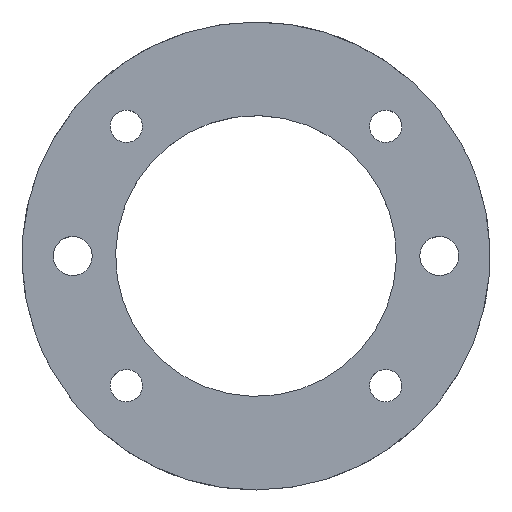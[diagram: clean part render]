
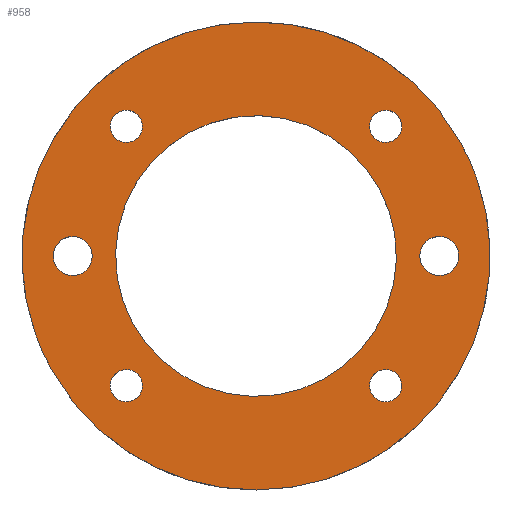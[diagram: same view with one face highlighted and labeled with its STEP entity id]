
A CAD part, top view. The second image highlights one B-rep face of the part: STEP entity #958.
In plain terms, the highlighted planar face has unit normal (0, 0, 1).
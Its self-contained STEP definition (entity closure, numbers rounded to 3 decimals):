
#308=CARTESIAN_POINT('Axis2P3D Location',(-23.5,0.,-659.)) ;
#312=CARTESIAN_POINT('Vertex',(-24.699,2.194,-659.)) ;
#314=CARTESIAN_POINT('Vertex',(-22.301,-2.194,-659.)) ;
#523=CARTESIAN_POINT('Axis2P3D Location',(16.617,-16.617,-659.)) ;
#527=CARTESIAN_POINT('Vertex',(14.803,-17.608,-659.)) ;
#529=CARTESIAN_POINT('Vertex',(18.431,-15.626,-659.)) ;
#554=CARTESIAN_POINT('Axis2P3D Location',(16.617,-16.617,-659.)) ;
#629=CARTESIAN_POINT('Axis2P3D Location',(16.617,16.617,-659.)) ;
#633=CARTESIAN_POINT('Vertex',(17.608,14.803,-659.)) ;
#635=CARTESIAN_POINT('Vertex',(15.626,18.431,-659.)) ;
#660=CARTESIAN_POINT('Axis2P3D Location',(16.617,16.617,-659.)) ;
#729=CARTESIAN_POINT('Axis2P3D Location',(-16.617,16.617,-659.)) ;
#733=CARTESIAN_POINT('Vertex',(-18.431,15.626,-659.)) ;
#735=CARTESIAN_POINT('Vertex',(-14.803,17.608,-659.)) ;
#760=CARTESIAN_POINT('Axis2P3D Location',(-16.617,16.617,-659.)) ;
#777=CARTESIAN_POINT('Axis2P3D Location',(-16.617,-16.617,-659.)) ;
#781=CARTESIAN_POINT('Vertex',(-15.626,-18.431,-659.)) ;
#783=CARTESIAN_POINT('Vertex',(-17.608,-14.803,-659.)) ;
#808=CARTESIAN_POINT('Axis2P3D Location',(-16.617,-16.617,-659.)) ;
#825=CARTESIAN_POINT('Axis2P3D Location',(-23.5,0.,-659.)) ;
#837=CARTESIAN_POINT('Axis2P3D Location',(0.,76.328,-659.)) ;
#843=CARTESIAN_POINT('Control Point',(26.327,14.383,-659.)) ;
#844=CARTESIAN_POINT('Control Point',(24.951,16.902,-659.)) ;
#845=CARTESIAN_POINT('Control Point',(23.255,19.29,-659.)) ;
#846=CARTESIAN_POINT('Control Point',(21.251,21.488,-659.)) ;
#847=CARTESIAN_POINT('Control Point',(16.763,25.316,-659.)) ;
#848=CARTESIAN_POINT('Control Point',(11.393,27.987,-659.)) ;
#849=CARTESIAN_POINT('Control Point',(8.583,28.976,-659.)) ;
#850=CARTESIAN_POINT('Control Point',(3.051,30.179,-659.)) ;
#851=CARTESIAN_POINT('Control Point',(-2.649,30.064,-659.)) ;
#852=CARTESIAN_POINT('Control Point',(-5.331,29.707,-659.)) ;
#853=CARTESIAN_POINT('Control Point',(-10.572,28.397,-659.)) ;
#854=CARTESIAN_POINT('Control Point',(-15.402,25.955,-659.)) ;
#855=CARTESIAN_POINT('Control Point',(-17.667,24.47,-659.)) ;
#856=CARTESIAN_POINT('Control Point',(-21.834,21.01,-659.)) ;
#857=CARTESIAN_POINT('Control Point',(-25.12,16.73,-659.)) ;
#858=CARTESIAN_POINT('Control Point',(-26.516,14.413,-659.)) ;
#859=CARTESIAN_POINT('Control Point',(-28.895,9.226,-659.)) ;
#860=CARTESIAN_POINT('Control Point',(-29.996,3.68,-659.)) ;
#861=CARTESIAN_POINT('Control Point',(-30.208,0.71,-659.)) ;
#862=CARTESIAN_POINT('Control Point',(-29.952,-4.271,-659.)) ;
#863=CARTESIAN_POINT('Control Point',(-28.723,-8.999,-659.)) ;
#864=CARTESIAN_POINT('Control Point',(-28.063,-10.876,-659.)) ;
#865=CARTESIAN_POINT('Control Point',(-27.26,-12.675,-659.)) ;
#866=CARTESIAN_POINT('Control Point',(-26.327,-14.383,-659.)) ;
#867=CARTESIAN_POINT('Vertex',(26.327,14.383,-659.)) ;
#869=CARTESIAN_POINT('Vertex',(-26.327,-14.383,-659.)) ;
#873=CARTESIAN_POINT('Control Point',(-26.327,-14.383,-659.)) ;
#874=CARTESIAN_POINT('Control Point',(-24.951,-16.902,-659.)) ;
#875=CARTESIAN_POINT('Control Point',(-23.255,-19.29,-659.)) ;
#876=CARTESIAN_POINT('Control Point',(-21.251,-21.488,-659.)) ;
#877=CARTESIAN_POINT('Control Point',(-16.763,-25.316,-659.)) ;
#878=CARTESIAN_POINT('Control Point',(-11.393,-27.987,-659.)) ;
#879=CARTESIAN_POINT('Control Point',(-8.583,-28.976,-659.)) ;
#880=CARTESIAN_POINT('Control Point',(-3.051,-30.179,-659.)) ;
#881=CARTESIAN_POINT('Control Point',(2.649,-30.064,-659.)) ;
#882=CARTESIAN_POINT('Control Point',(5.331,-29.707,-659.)) ;
#883=CARTESIAN_POINT('Control Point',(10.572,-28.397,-659.)) ;
#884=CARTESIAN_POINT('Control Point',(15.402,-25.955,-659.)) ;
#885=CARTESIAN_POINT('Control Point',(17.667,-24.47,-659.)) ;
#886=CARTESIAN_POINT('Control Point',(21.834,-21.01,-659.)) ;
#887=CARTESIAN_POINT('Control Point',(25.12,-16.73,-659.)) ;
#888=CARTESIAN_POINT('Control Point',(26.516,-14.413,-659.)) ;
#889=CARTESIAN_POINT('Control Point',(28.895,-9.226,-659.)) ;
#890=CARTESIAN_POINT('Control Point',(29.996,-3.68,-659.)) ;
#891=CARTESIAN_POINT('Control Point',(30.208,-0.71,-659.)) ;
#892=CARTESIAN_POINT('Control Point',(29.952,4.271,-659.)) ;
#893=CARTESIAN_POINT('Control Point',(28.723,8.999,-659.)) ;
#894=CARTESIAN_POINT('Control Point',(28.063,10.876,-659.)) ;
#895=CARTESIAN_POINT('Control Point',(27.26,12.675,-659.)) ;
#896=CARTESIAN_POINT('Control Point',(26.327,14.383,-659.)) ;
#922=CARTESIAN_POINT('Axis2P3D Location',(23.5,0.,-659.)) ;
#926=CARTESIAN_POINT('Vertex',(24.699,-2.194,-659.)) ;
#928=CARTESIAN_POINT('Vertex',(22.301,2.194,-659.)) ;
#931=CARTESIAN_POINT('Axis2P3D Location',(23.5,0.,-659.)) ;
#940=CARTESIAN_POINT('Axis2P3D Location',(0.,0.,-659.)) ;
#944=CARTESIAN_POINT('Vertex',(-15.796,-8.63,-659.)) ;
#946=CARTESIAN_POINT('Vertex',(15.796,8.63,-659.)) ;
#949=CARTESIAN_POINT('Axis2P3D Location',(0.,0.,-659.)) ;
#309=DIRECTION('Axis2P3D Direction',(-0.,0.,1.)) ;
#524=DIRECTION('Axis2P3D Direction',(0.,-0.,1.)) ;
#555=DIRECTION('Axis2P3D Direction',(0.,0.,1.)) ;
#630=DIRECTION('Axis2P3D Direction',(0.,-0.,1.)) ;
#661=DIRECTION('Axis2P3D Direction',(-0.,0.,1.)) ;
#730=DIRECTION('Axis2P3D Direction',(0.,-0.,1.)) ;
#761=DIRECTION('Axis2P3D Direction',(0.,0.,1.)) ;
#778=DIRECTION('Axis2P3D Direction',(0.,-0.,1.)) ;
#809=DIRECTION('Axis2P3D Direction',(-0.,0.,1.)) ;
#826=DIRECTION('Axis2P3D Direction',(0.,-0.,1.)) ;
#838=DIRECTION('Axis2P3D Direction',(0.,0.,-1.)) ;
#839=DIRECTION('Axis2P3D XDirection',(1.,0.,0.)) ;
#923=DIRECTION('Axis2P3D Direction',(0.,0.,-1.)) ;
#932=DIRECTION('Axis2P3D Direction',(0.,0.,-1.)) ;
#941=DIRECTION('Axis2P3D Direction',(0.,0.,-1.)) ;
#950=DIRECTION('Axis2P3D Direction',(0.,0.,-1.)) ;
#310=AXIS2_PLACEMENT_3D('Circle Axis2P3D',#308,#309,$) ;
#525=AXIS2_PLACEMENT_3D('Circle Axis2P3D',#523,#524,$) ;
#556=AXIS2_PLACEMENT_3D('Circle Axis2P3D',#554,#555,$) ;
#631=AXIS2_PLACEMENT_3D('Circle Axis2P3D',#629,#630,$) ;
#662=AXIS2_PLACEMENT_3D('Circle Axis2P3D',#660,#661,$) ;
#731=AXIS2_PLACEMENT_3D('Circle Axis2P3D',#729,#730,$) ;
#762=AXIS2_PLACEMENT_3D('Circle Axis2P3D',#760,#761,$) ;
#779=AXIS2_PLACEMENT_3D('Circle Axis2P3D',#777,#778,$) ;
#810=AXIS2_PLACEMENT_3D('Circle Axis2P3D',#808,#809,$) ;
#827=AXIS2_PLACEMENT_3D('Circle Axis2P3D',#825,#826,$) ;
#840=AXIS2_PLACEMENT_3D('Plane Axis2P3D',#837,#838,#839) ;
#924=AXIS2_PLACEMENT_3D('Circle Axis2P3D',#922,#923,$) ;
#933=AXIS2_PLACEMENT_3D('Circle Axis2P3D',#931,#932,$) ;
#942=AXIS2_PLACEMENT_3D('Circle Axis2P3D',#940,#941,$) ;
#951=AXIS2_PLACEMENT_3D('Circle Axis2P3D',#949,#950,$) ;
#899=ORIENTED_EDGE('',*,*,#871,.T.) ;
#900=ORIENTED_EDGE('',*,*,#897,.T.) ;
#903=ORIENTED_EDGE('',*,*,#664,.T.) ;
#904=ORIENTED_EDGE('',*,*,#637,.T.) ;
#907=ORIENTED_EDGE('',*,*,#737,.T.) ;
#908=ORIENTED_EDGE('',*,*,#764,.T.) ;
#911=ORIENTED_EDGE('',*,*,#785,.T.) ;
#912=ORIENTED_EDGE('',*,*,#812,.T.) ;
#915=ORIENTED_EDGE('',*,*,#558,.T.) ;
#916=ORIENTED_EDGE('',*,*,#531,.T.) ;
#919=ORIENTED_EDGE('',*,*,#316,.T.) ;
#920=ORIENTED_EDGE('',*,*,#829,.T.) ;
#937=ORIENTED_EDGE('',*,*,#930,.T.) ;
#938=ORIENTED_EDGE('',*,*,#935,.T.) ;
#955=ORIENTED_EDGE('',*,*,#948,.T.) ;
#956=ORIENTED_EDGE('',*,*,#953,.T.) ;
#905=FACE_BOUND('',#902,.T.) ;
#909=FACE_BOUND('',#906,.T.) ;
#913=FACE_BOUND('',#910,.T.) ;
#917=FACE_BOUND('',#914,.T.) ;
#921=FACE_BOUND('',#918,.T.) ;
#939=FACE_BOUND('',#936,.T.) ;
#957=FACE_BOUND('',#954,.T.) ;
#958=ADVANCED_FACE('UMEZ02-01A1-016.1\\E__A I_____',(#901,#905,#909,#913,#917,#921,#939,#957),#841,.F.) ;
#842=B_SPLINE_CURVE_WITH_KNOTS('',5,(#843,#844,#845,#846,#847,#848,#849,#850,#851,#852,#853,#854,#855,#856,#857,#858,#859,#860,#861,#862,#863,#864,#865,#866),.UNSPECIFIED.,.F.,.U.,(6,3,3,3,3,3,3,6),(0.,21.448,42.188,60.74,79.234,97.859,118.785,133.325),.UNSPECIFIED.) ;
#872=B_SPLINE_CURVE_WITH_KNOTS('',5,(#873,#874,#875,#876,#877,#878,#879,#880,#881,#882,#883,#884,#885,#886,#887,#888,#889,#890,#891,#892,#893,#894,#895,#896),.UNSPECIFIED.,.F.,.U.,(6,3,3,3,3,3,3,6),(0.,21.448,42.188,60.74,79.234,97.859,118.785,133.325),.UNSPECIFIED.) ;
#311=CIRCLE('generated circle',#310,2.5) ;
#526=CIRCLE('generated circle',#525,2.067) ;
#557=CIRCLE('generated circle',#556,2.067) ;
#632=CIRCLE('generated circle',#631,2.067) ;
#663=CIRCLE('generated circle',#662,2.067) ;
#732=CIRCLE('generated circle',#731,2.067) ;
#763=CIRCLE('generated circle',#762,2.067) ;
#780=CIRCLE('generated circle',#779,2.067) ;
#811=CIRCLE('generated circle',#810,2.067) ;
#828=CIRCLE('generated circle',#827,2.5) ;
#925=CIRCLE('generated circle',#924,2.5) ;
#934=CIRCLE('generated circle',#933,2.5) ;
#943=CIRCLE('generated circle',#942,18.) ;
#952=CIRCLE('generated circle',#951,18.) ;
#316=EDGE_CURVE('',#313,#315,#311,.F.) ;
#531=EDGE_CURVE('',#528,#530,#526,.F.) ;
#558=EDGE_CURVE('',#530,#528,#557,.F.) ;
#637=EDGE_CURVE('',#634,#636,#632,.F.) ;
#664=EDGE_CURVE('',#636,#634,#663,.F.) ;
#737=EDGE_CURVE('',#734,#736,#732,.F.) ;
#764=EDGE_CURVE('',#736,#734,#763,.F.) ;
#785=EDGE_CURVE('',#782,#784,#780,.F.) ;
#812=EDGE_CURVE('',#784,#782,#811,.F.) ;
#829=EDGE_CURVE('',#315,#313,#828,.F.) ;
#871=EDGE_CURVE('',#868,#870,#842,.T.) ;
#897=EDGE_CURVE('',#870,#868,#872,.T.) ;
#930=EDGE_CURVE('',#927,#929,#925,.T.) ;
#935=EDGE_CURVE('',#929,#927,#934,.T.) ;
#948=EDGE_CURVE('',#945,#947,#943,.T.) ;
#953=EDGE_CURVE('',#947,#945,#952,.T.) ;
#898=EDGE_LOOP('',(#899,#900)) ;
#902=EDGE_LOOP('',(#903,#904)) ;
#906=EDGE_LOOP('',(#907,#908)) ;
#910=EDGE_LOOP('',(#911,#912)) ;
#914=EDGE_LOOP('',(#915,#916)) ;
#918=EDGE_LOOP('',(#919,#920)) ;
#936=EDGE_LOOP('',(#937,#938)) ;
#954=EDGE_LOOP('',(#955,#956)) ;
#901=FACE_OUTER_BOUND('',#898,.T.) ;
#841=PLANE('',#840) ;
#313=VERTEX_POINT('',#312) ;
#315=VERTEX_POINT('',#314) ;
#528=VERTEX_POINT('',#527) ;
#530=VERTEX_POINT('',#529) ;
#634=VERTEX_POINT('',#633) ;
#636=VERTEX_POINT('',#635) ;
#734=VERTEX_POINT('',#733) ;
#736=VERTEX_POINT('',#735) ;
#782=VERTEX_POINT('',#781) ;
#784=VERTEX_POINT('',#783) ;
#868=VERTEX_POINT('',#867) ;
#870=VERTEX_POINT('',#869) ;
#927=VERTEX_POINT('',#926) ;
#929=VERTEX_POINT('',#928) ;
#945=VERTEX_POINT('',#944) ;
#947=VERTEX_POINT('',#946) ;
